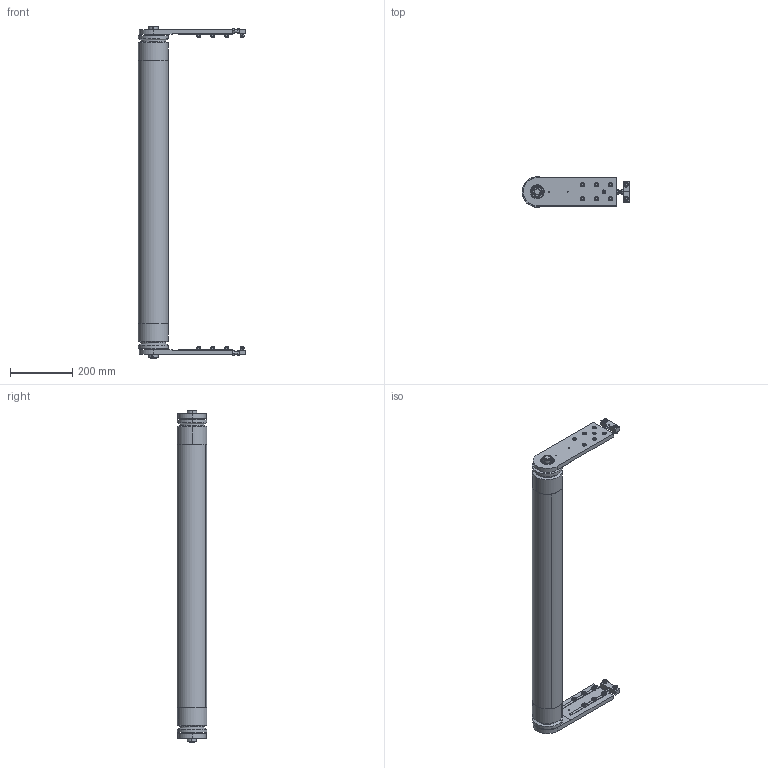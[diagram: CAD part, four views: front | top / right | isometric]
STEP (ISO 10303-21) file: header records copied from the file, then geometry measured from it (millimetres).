
FILE_DESCRIPTION (( 'STEP AP203' ), '1' );
FILE_NAME ('084.095.KIZ.1000.STEP', '2018-03-12T07:47:10', ( '' ), ( '' ), 'SwSTEP 2.0', 'SolidWorks 2016', '' );
FILE_SCHEMA (( 'CONFIG_CONTROL_DESIGN' ));
Length unit declared in the file: millimetre
Products named in the file (11): 084.301.000 VITI ALUSIC_084.301.003; DADO ESAGONALE AUTOBLOCCANTE RIBASSATO M30-UNI 7474; 084.812.023.1000_Default<A macchina>; 084.808.002_084.808.002; 084.302.000 DADI ALUSIC 13x13-1_084.302.004; 084.803.003; 084.095.KIZ.1000; 449.014.106; 084.802.019_084.802.019; 084.812.024.1000; CHIAVETTE_A 8x7x50 UNI 6604-69
Assembly tree (45 placements, depth 2):
  084.095.KIZ.1000
    084.812.023.1000_Default<A macchina>
    084.812.024.1000
    449.014.106  x2
    084.803.003  x2
    084.808.002_084.808.002  x2
    084.802.019_084.802.019  x2
    084.301.000 VITI ALUSIC_084.301.003  x16
    084.302.000 DADI ALUSIC 13x13-1_084.302.004  x16
    DADO ESAGONALE AUTOBLOCCANTE RIBASSATO M30-UNI 7474  x2
    CHIAVETTE_A 8x7x50 UNI 6604-69
Bounding box: 344 x 96 x 1065 mm (x, y, z)
Volume: 4036987.3 mm3; surface area: 1232295.7 mm2
Topology: 51 solids, 53 shells, 1242 faces, 3095 edges, 2006 vertices
Faces by surface type: plane 478, cylinder 380, torus 148, bspline 120, cone 108, sphere 8
Entity records: 14395 total; most frequent: CARTESIAN_POINT 3155, DIRECTION 1961, ORIENTED_EDGE 1864, EDGE_CURVE 932, AXIS2_PLACEMENT_3D 765, VERTEX_POINT 607, EDGE_LOOP 433, VECTOR 431
